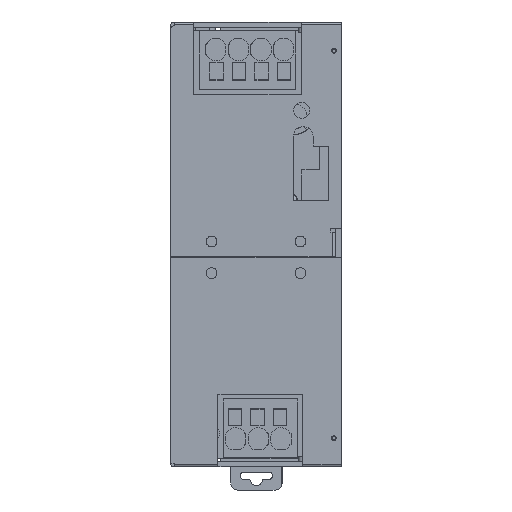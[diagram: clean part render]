
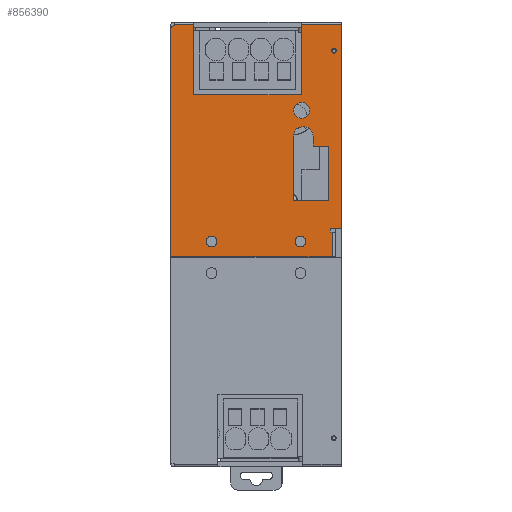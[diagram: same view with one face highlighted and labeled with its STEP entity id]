
A CAD part, left-side view. The second image highlights one B-rep face of the part: STEP entity #856390.
In plain terms, the highlighted planar face has unit normal (-1, 0, 0).
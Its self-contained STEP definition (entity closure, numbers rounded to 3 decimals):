
#797810=CARTESIAN_POINT('',(-36.647,26.449,
67.202));
#797820=VERTEX_POINT('',#797810);
#797850=CARTESIAN_POINT('',(-36.647,25.786,67.202
));
#797860=DIRECTION('',(-1.,0.,0.));
#797870=DIRECTION('',(0.,1.,0.));
#797880=AXIS2_PLACEMENT_3D('',#797850,#797860,#797870);
#797890=CIRCLE('',#797880,0.662);
#797900=CARTESIAN_POINT('',(-36.647,25.124,
67.202));
#797910=VERTEX_POINT('',#797900);
#797920=EDGE_CURVE('',#797910,#797820,#797890,.T.);
#803750=CARTESIAN_POINT('',(-36.647,23.686,
17.2));
#803760=VERTEX_POINT('',#803750);
#803790=CARTESIAN_POINT('',(-36.647,23.686,0.));
#803800=DIRECTION('',(0.,0.,-1.));
#803810=VECTOR('',#803800,1.);
#803820=LINE('',#803790,#803810);
#803830=CARTESIAN_POINT('',(-36.647,23.686,74.55
));
#803840=VERTEX_POINT('',#803830);
#803850=EDGE_CURVE('',#803840,#803760,#803820,.T.);
#808690=CARTESIAN_POINT('',(-36.647,26.786,
17.2));
#808700=VERTEX_POINT('',#808690);
#808870=CARTESIAN_POINT('',(-36.647,26.786,
16.2));
#808880=VERTEX_POINT('',#808870);
#808910=CARTESIAN_POINT('',(-36.647,26.786,-3.851
));
#808920=DIRECTION('',(0.,0.,1.));
#808930=VECTOR('',#808920,1.);
#808940=LINE('',#808910,#808930);
#808950=EDGE_CURVE('',#808880,#808700,#808940,.T.);
#811250=CARTESIAN_POINT('',(-36.647,70.686,
74.55));
#811260=VERTEX_POINT('',#811250);
#811440=CARTESIAN_POINT('',(-36.647,65.196,
74.55));
#811450=VERTEX_POINT('',#811440);
#811480=CARTESIAN_POINT('',(-36.647,0.,74.55));
#811490=DIRECTION('',(0.,1.,0.));
#811500=VECTOR('',#811490,1.);
#811510=LINE('',#811480,#811500);
#811520=EDGE_CURVE('',#811450,#811260,#811510,.T.);
#812640=CARTESIAN_POINT('',(-36.647,34.996,
74.55));
#812650=VERTEX_POINT('',#812640);
#812680=CARTESIAN_POINT('',(-36.647,34.996,0.));
#812690=DIRECTION('',(0.,0.,-1.));
#812700=VECTOR('',#812690,1.);
#812710=LINE('',#812680,#812700);
#812720=CARTESIAN_POINT('',(-36.647,34.996,
54.774));
#812730=VERTEX_POINT('',#812720);
#812740=EDGE_CURVE('',#812650,#812730,#812710,.T.);
#818040=CARTESIAN_POINT('',(-36.647,27.286,
40.376));
#818050=VERTEX_POINT('',#818040);
#818080=CARTESIAN_POINT('',(-36.647,27.286,0.));
#818090=DIRECTION('',(0.,0.,-1.));
#818100=VECTOR('',#818090,1.);
#818110=LINE('',#818080,#818100);
#818120=CARTESIAN_POINT('',(-36.647,27.286,
25.012));
#818130=VERTEX_POINT('',#818120);
#818140=EDGE_CURVE('',#818050,#818130,#818110,.T.);
#823640=CARTESIAN_POINT('',(-36.647,65.196,
54.774));
#823650=VERTEX_POINT('',#823640);
#823680=CARTESIAN_POINT('',(-36.647,65.196,0.));
#823690=DIRECTION('',(0.,0.,1.));
#823700=VECTOR('',#823690,1.);
#823710=LINE('',#823680,#823700);
#823720=EDGE_CURVE('',#823650,#811450,#823710,.T.);
#823980=CARTESIAN_POINT('',(-36.647,0.,17.2));
#823990=DIRECTION('',(0.,-1.,0.));
#824000=VECTOR('',#823990,1.);
#824010=LINE('',#823980,#824000);
#824020=EDGE_CURVE('',#808700,#803760,#824010,.T.);
#826990=CARTESIAN_POINT('',(-36.647,0.,54.774));
#827000=DIRECTION('',(0.,1.,0.));
#827010=VECTOR('',#827000,1.);
#827020=LINE('',#826990,#827010);
#827030=EDGE_CURVE('',#812730,#823650,#827020,.T.);
#834900=CARTESIAN_POINT('',(-36.647,37.136,
25.012));
#834910=VERTEX_POINT('',#834900);
#834940=CARTESIAN_POINT('',(-36.647,37.136,-3.501
));
#834950=DIRECTION('',(0.,0.,1.));
#834960=VECTOR('',#834950,1.);
#834970=LINE('',#834940,#834960);
#834980=CARTESIAN_POINT('',(-36.647,37.136,
43.147));
#834990=VERTEX_POINT('',#834980);
#835000=EDGE_CURVE('',#834910,#834990,#834970,.T.);
#835620=CARTESIAN_POINT('',(-36.647,32.549,
50.457));
#835630=VERTEX_POINT('',#835620);
#835790=CARTESIAN_POINT('',(-36.647,37.049,
50.457));
#835800=VERTEX_POINT('',#835790);
#835830=CARTESIAN_POINT('',(-36.647,34.799,
50.457));
#835840=DIRECTION('',(-1.,0.,0.));
#835850=DIRECTION('',(0.,1.,0.));
#835860=AXIS2_PLACEMENT_3D('',#835830,#835840,#835850);
#835870=CIRCLE('',#835860,2.25);
#835880=EDGE_CURVE('',#835630,#835800,#835870,.T.);
#847760=CARTESIAN_POINT('',(-36.647,26.286,
16.2));
#847770=VERTEX_POINT('',#847760);
#847800=CARTESIAN_POINT('',(-36.647,26.786,
16.2));
#847810=DIRECTION('',(0.,-1.,0.));
#847820=VECTOR('',#847810,1.);
#847830=LINE('',#847800,#847820);
#847840=EDGE_CURVE('',#808880,#847770,#847830,.T.);
#854840=CARTESIAN_POINT('',(-36.647,71.686,0.));
#854850=DIRECTION('',(0.,0.,1.));
#854860=VECTOR('',#854850,1.);
#854870=LINE('',#854840,#854860);
#854880=CARTESIAN_POINT('',(-36.647,71.686,
9.2));
#854890=VERTEX_POINT('',#854880);
#854900=CARTESIAN_POINT('',(-36.647,71.686,
73.3));
#854910=VERTEX_POINT('',#854900);
#854920=EDGE_CURVE('',#854890,#854910,#854870,.T.);
#855190=CARTESIAN_POINT('',(-36.647,31.986,92.23
));
#855200=DIRECTION('',(-1.,0.,0.));
#855210=DIRECTION('',(0.,0.,1.));
#855220=AXIS2_PLACEMENT_3D('',#855190,#855200,#855210);
#855230=PLANE('',#855220);
#855240=CARTESIAN_POINT('',(-36.647,34.386,
43.147));
#855250=DIRECTION('',(-1.,0.,0.));
#855260=DIRECTION('',(0.,1.,0.));
#855270=AXIS2_PLACEMENT_3D('',#855240,#855250,#855260);
#855280=CIRCLE('',#855270,2.75);
#855290=CARTESIAN_POINT('',(-36.647,31.636,
43.147));
#855300=VERTEX_POINT('',#855290);
#855310=EDGE_CURVE('',#855300,#834990,#855280,.T.);
#855320=ORIENTED_EDGE('',*,*,#855310,.F.);
#855330=ORIENTED_EDGE('',*,*,#835000,.T.);
#855340=CARTESIAN_POINT('',(-36.647,37.136,
25.012));
#855350=DIRECTION('',(0.,-1.,0.));
#855360=VECTOR('',#855350,1.);
#855370=LINE('',#855340,#855360);
#855380=EDGE_CURVE('',#834910,#818130,#855370,.T.);
#855390=ORIENTED_EDGE('',*,*,#855380,.F.);
#855400=ORIENTED_EDGE('',*,*,#818140,.T.);
#855410=CARTESIAN_POINT('',(-36.647,0.,40.376));
#855420=DIRECTION('',(0.,-1.,0.));
#855430=VECTOR('',#855420,1.);
#855440=LINE('',#855410,#855430);
#855450=CARTESIAN_POINT('',(-36.647,31.636,
40.376));
#855460=VERTEX_POINT('',#855450);
#855470=EDGE_CURVE('',#855460,#818050,#855440,.T.);
#855480=ORIENTED_EDGE('',*,*,#855470,.T.);
#855490=CARTESIAN_POINT('',(-36.647,31.636,-3.501
));
#855500=DIRECTION('',(0.,0.,-1.));
#855510=VECTOR('',#855500,1.);
#855520=LINE('',#855490,#855510);
#855530=EDGE_CURVE('',#855300,#855460,#855520,.T.);
#855540=ORIENTED_EDGE('',*,*,#855530,.T.);
#855550=EDGE_LOOP('',(#855540,#855480,#855400,#855390,#855330,#855320));
#855560=FACE_BOUND('',#855550,.T.);
#855570=CARTESIAN_POINT('',(-36.647,60.186,13.55
));
#855580=DIRECTION('',(1.,0.,0.));
#855590=DIRECTION('',(0.,0.,1.));
#855600=AXIS2_PLACEMENT_3D('',#855570,#855580,#855590);
#855610=CIRCLE('',#855600,1.5);
#855620=CARTESIAN_POINT('',(-36.647,60.186,15.05
));
#855630=VERTEX_POINT('',#855620);
#855640=CARTESIAN_POINT('',(-36.647,60.186,12.05
));
#855650=VERTEX_POINT('',#855640);
#855660=EDGE_CURVE('',#855630,#855650,#855610,.T.);
#855670=ORIENTED_EDGE('',*,*,#855660,.T.);
#855680=EDGE_CURVE('',#855650,#855630,#855610,.T.);
#855690=ORIENTED_EDGE('',*,*,#855680,.T.);
#855700=EDGE_LOOP('',(#855690,#855670));
#855710=FACE_BOUND('',#855700,.T.);
#855720=CARTESIAN_POINT('',(-36.647,35.186,13.55
));
#855730=DIRECTION('',(1.,0.,0.));
#855740=DIRECTION('',(0.,0.,1.));
#855750=AXIS2_PLACEMENT_3D('',#855720,#855730,#855740);
#855760=CIRCLE('',#855750,1.5);
#855770=CARTESIAN_POINT('',(-36.647,35.186,15.05
));
#855780=VERTEX_POINT('',#855770);
#855790=CARTESIAN_POINT('',(-36.647,35.186,12.05
));
#855800=VERTEX_POINT('',#855790);
#855810=EDGE_CURVE('',#855780,#855800,#855760,.T.);
#855820=ORIENTED_EDGE('',*,*,#855810,.T.);
#855830=EDGE_CURVE('',#855800,#855780,#855760,.T.);
#855840=ORIENTED_EDGE('',*,*,#855830,.T.);
#855850=EDGE_LOOP('',(#855840,#855820));
#855860=FACE_BOUND('',#855850,.T.);
#855870=EDGE_CURVE('',#797820,#797910,#797890,.T.);
#855880=ORIENTED_EDGE('',*,*,#855870,.F.);
#855890=ORIENTED_EDGE('',*,*,#797920,.F.);
#855900=EDGE_LOOP('',(#855890,#855880));
#855910=FACE_BOUND('',#855900,.T.);
#855920=EDGE_CURVE('',#835800,#835630,#835870,.T.);
#855930=ORIENTED_EDGE('',*,*,#855920,.F.);
#855940=ORIENTED_EDGE('',*,*,#835880,.F.);
#855950=EDGE_LOOP('',(#855940,#855930));
#855960=FACE_BOUND('',#855950,.T.);
#855970=CARTESIAN_POINT('',(-36.647,0.,9.2));
#855980=DIRECTION('',(0.,-1.,0.));
#855990=VECTOR('',#855980,1.);
#856000=LINE('',#855970,#855990);
#856010=CARTESIAN_POINT('',(-36.647,26.286,
9.2));
#856020=VERTEX_POINT('',#856010);
#856030=EDGE_CURVE('',#854890,#856020,#856000,.T.);
#856040=ORIENTED_EDGE('',*,*,#856030,.T.);
#856050=ORIENTED_EDGE('',*,*,#854920,.F.);
#856060=CARTESIAN_POINT('',(-36.647,70.686,
73.3));
#856070=DIRECTION('',(-1.,0.,0.));
#856080=DIRECTION('',(0.,1.,0.));
#856090=AXIS2_PLACEMENT_3D('',#856060,#856070,#856080);
#856100=CIRCLE('',#856090,1.);
#856110=CARTESIAN_POINT('',(-36.647,70.686,
74.3));
#856120=VERTEX_POINT('',#856110);
#856130=EDGE_CURVE('',#856120,#854910,#856100,.T.);
#856140=ORIENTED_EDGE('',*,*,#856130,.T.);
#856150=CARTESIAN_POINT('',(-36.647,70.686,0.));
#856160=DIRECTION('',(0.,0.,-1.));
#856170=VECTOR('',#856160,1.);
#856180=LINE('',#856150,#856170);
#856190=EDGE_CURVE('',#811260,#856120,#856180,.T.);
#856200=ORIENTED_EDGE('',*,*,#856190,.T.);
#856210=ORIENTED_EDGE('',*,*,#811520,.T.);
#856220=ORIENTED_EDGE('',*,*,#823720,.T.);
#856230=ORIENTED_EDGE('',*,*,#827030,.T.);
#856240=ORIENTED_EDGE('',*,*,#812740,.T.);
#856250=EDGE_CURVE('',#803840,#812650,#811510,.T.);
#856260=ORIENTED_EDGE('',*,*,#856250,.T.);
#856270=ORIENTED_EDGE('',*,*,#803850,.F.);
#856280=ORIENTED_EDGE('',*,*,#824020,.T.);
#856290=ORIENTED_EDGE('',*,*,#808950,.T.);
#856300=ORIENTED_EDGE('',*,*,#847840,.F.);
#856310=CARTESIAN_POINT('',(-36.647,26.286,0.));
#856320=DIRECTION('',(0.,0.,-1.));
#856330=VECTOR('',#856320,1.);
#856340=LINE('',#856310,#856330);
#856350=EDGE_CURVE('',#847770,#856020,#856340,.T.);
#856360=ORIENTED_EDGE('',*,*,#856350,.F.);
#856370=EDGE_LOOP('',(#856360,#856300,#856290,#856280,#856270,#856260,
#856240,#856230,#856220,#856210,#856200,#856140,#856050,#856040));
#856380=FACE_OUTER_BOUND('',#856370,.T.);
#856390=ADVANCED_FACE('',(#855560,#855710,#855860,#855910,#855960,
#856380),#855230,.T.);
